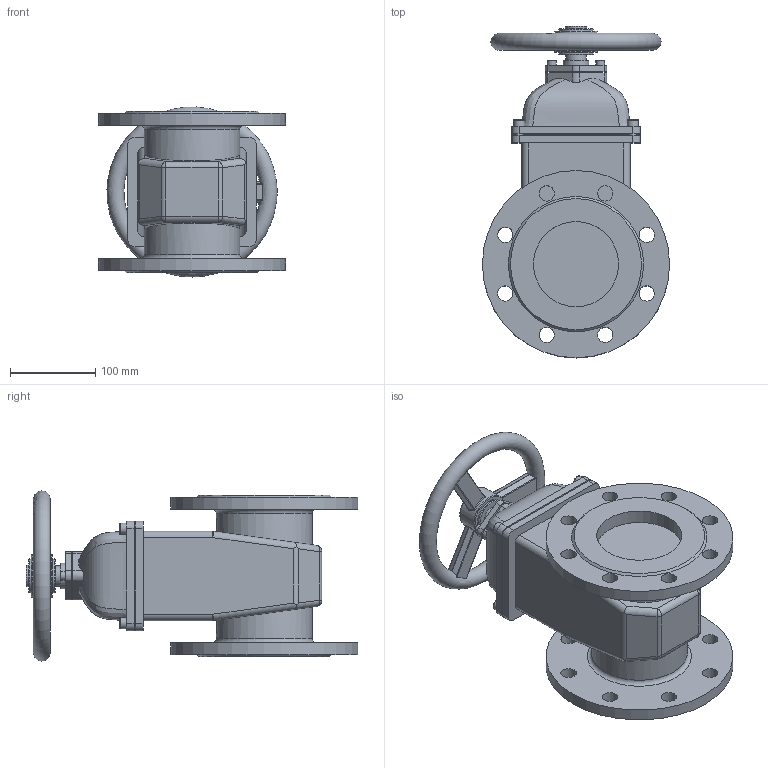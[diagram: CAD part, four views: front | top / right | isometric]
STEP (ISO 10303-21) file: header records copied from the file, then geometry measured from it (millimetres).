
FILE_DESCRIPTION(('STEP AP242'), '1');
FILE_NAME('GVWN1414N-2W-F-S blue Çàäâèæêà êëèíîâàÿ ñ íåâèäâèæíûì øòîêîì DN.ru Äó100 Ðó10-16', '', ('UNSPECIFIED'), ('UNSPECIFIED'), 'C3D Converter', 'C3D Toolkit', '');
FILE_SCHEMA(('AP242_MANAGED_MODEL_BASED_3D_ENGINEERING_MIM_LF { 1 0 10303 442 1 1 4 }'));
Length unit declared in the file: millimetre
Products named in the file (1): GVWN1414N-2W-F-S blue
Bounding box: 220 x 390 x 199.8 mm (x, y, z)
Volume: 5241874 mm3; surface area: 406268 mm2
Topology: 1 solids, 1 shells, 349 faces, 891 edges, 565 vertices
Faces by surface type: plane 150, cylinder 95, bspline 38, extrusion 27, torus 19, cone 12, sphere 8
Full cylindrical faces by diameter (mm): 6 x2, 8 x4, 10 x2, 13 x4, 18 x16, 24 x1, 25 x1, 30 x2, 40 x2, 50 x1, 100 x2, 112.5 x2, 220 x2
Entity records: 21120 total; most frequent: CARTESIAN_POINT 10629, ORIENTED_EDGE 1614, DIRECTION 1290, EDGE_CURVE 807, VERTEX_POINT 556, EDGE_LOOP 493, AXIS2_PLACEMENT_3D 454, FACE_BOUND 385
